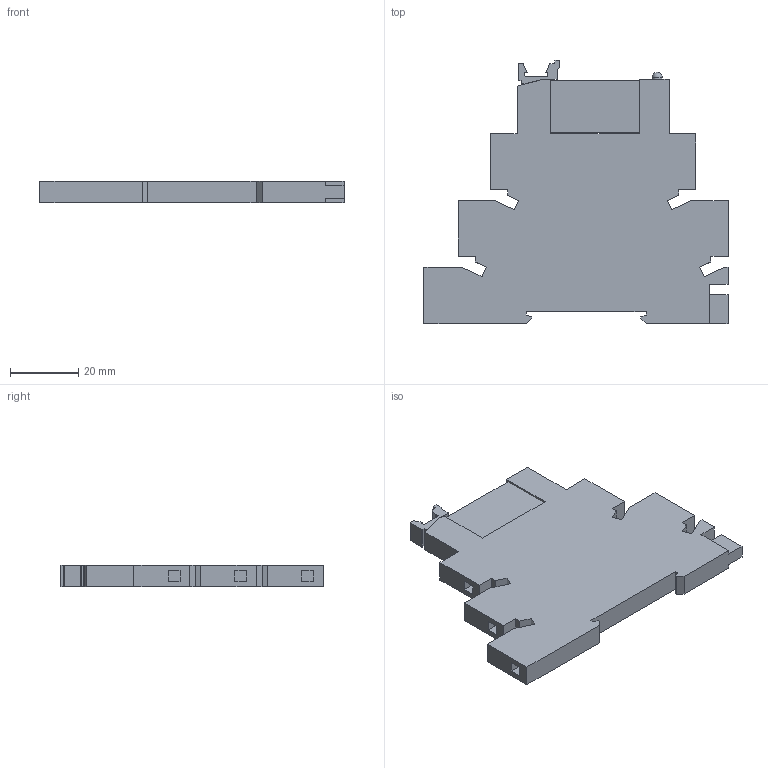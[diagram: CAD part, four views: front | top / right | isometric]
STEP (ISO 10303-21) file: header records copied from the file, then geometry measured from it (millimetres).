
FILE_DESCRIPTION (( 'STEP AP214' ), '1' );
FILE_NAME ('Ðåëå ïðîìåæóòî÷íîå ñ ðîçåòêîé â ñáîðå ÐÏ slim 23_1 6A 230Â AC (rps-23-1-60-rms230ÀÑ).STEP', '2023-03-29T13:11:16', ( '' ), ( '' ), 'SwSTEP 2.0', 'SolidWorks 2021', '' );
FILE_SCHEMA (( 'AUTOMOTIVE_DESIGN' ));
Length unit declared in the file: millimetre
Products named in the file (3): ÐÏ slim 23_1 6A 24Â DC EKF AVERES (rps-23-1-24DC)_00; Ðåëå ïðîìåæóòî÷íîå ñ ðîçåòêîé â ñáîðå ÐÏ slim 23_1 6A 230Â AC (rps-23-1-60-rms230ÀÑ); Ðàçúåì äëÿ ðåëå ÐM slim 23_1 EKF AVERES (rms-23-1)_00
Assembly tree (2 placements, depth 2):
  Ðåëå ïðîìåæóòî÷íîå ñ ðîçåòêîé â ñáîðå ÐÏ slim 23_1 6A 230Â AC (rps-23-1-60-rms230ÀÑ)
    Ðàçúåì äëÿ ðåëå ÐM slim 23_1 EKF AVERES (rms-23-1)_00
    ÐÏ slim 23_1 6A 24Â DC EKF AVERES (rps-23-1-24DC)_00
Bounding box: 89 x 77 x 6.3 mm (x, y, z)
Volume: 28408.4 mm3; surface area: 13278.6 mm2
Topology: 3 solids, 3 shells, 161 faces, 443 edges, 296 vertices
Faces by surface type: plane 137, cylinder 21, sphere 3
Full cylindrical faces by diameter (mm): 0.4 x2, 3 x1
Entity records: 5072 total; most frequent: CARTESIAN_POINT 883, ORIENTED_EDGE 858, DIRECTION 803, EDGE_CURVE 429, VECTOR 387, LINE 387, VERTEX_POINT 288, AXIS2_PLACEMENT_3D 208
